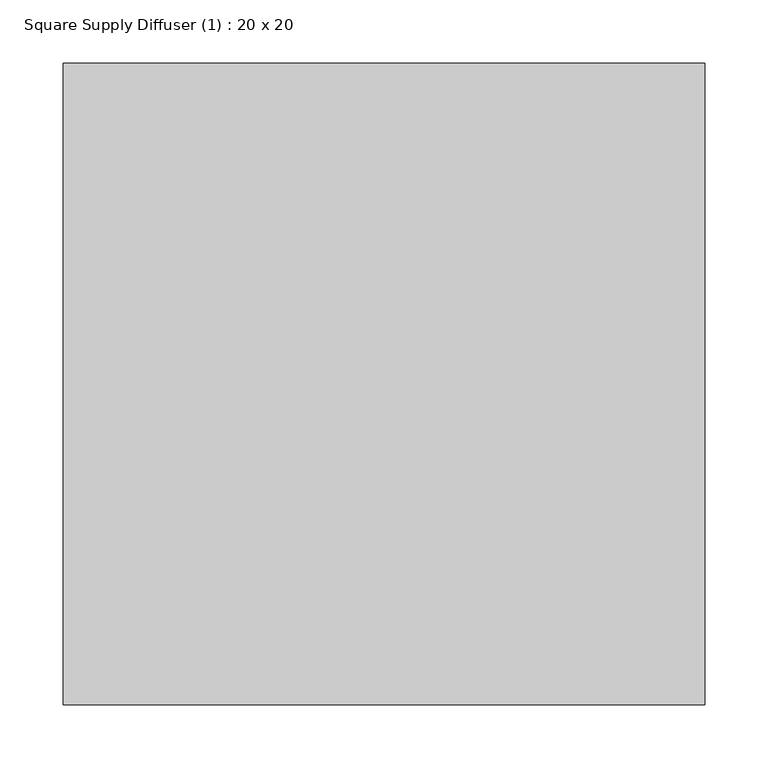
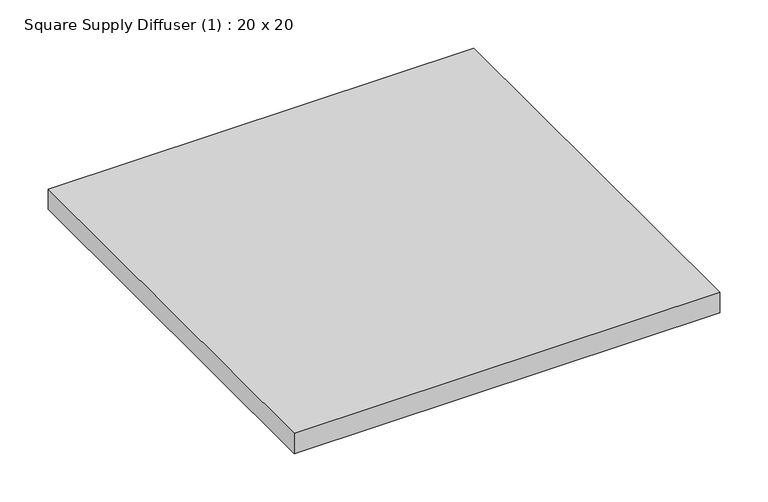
"""IFC4 building model written with IfcOpenShell, lengths in millimetres: air terminal geometry, Square Supply Diffuser (1) : 20 x 20."""

import ifcopenshell
import ifcopenshell.guid

model = None  # the IFC model being written
_history = None  # IfcOwnerHistory: only IFC2X3 demands one
_inside = {}  # id of a spatial element -> (the spatial element, [elements in it])
_under = {}  # id of a project, library or spatial element -> (it, [spatial elements below it])
_declared = {}  # id of a project -> (the project, [libraries it declares])
_typed = {}  # id of a type object -> (the type object, [elements of that type])
_made_of = {}  # id of a material, layer set ... -> (it, [elements and type objects made of it])


def new_model(schema):
    """Start an empty IFC model of exactly this schema.

    Asked for "IFC4X3", IfcOpenShell would pick the latest addendum, in which some entities
    have other attributes; the version numbers below select the first issue.
    IFC2X3 requires an IfcOwnerHistory on every rooted entity: one is made here for all.
    """
    global model, _history
    if schema == "IFC4X3":
        model = ifcopenshell.file(schema_version=(4, 3, 0, 0))
    else:
        model = ifcopenshell.file(schema=schema)
    _inside.clear()
    _under.clear()
    _declared.clear()
    _typed.clear()
    _made_of.clear()
    _history = None
    if model.schema == "IFC2X3":
        org = make("IfcOrganization", Name="unknown")
        user = make(
            "IfcPersonAndOrganization",
            ThePerson=make("IfcPerson", FamilyName="unknown"),
            TheOrganization=org,
        )
        app = make(
            "IfcApplication",
            ApplicationDeveloper=org,
            Version="unknown",
            ApplicationFullName="unknown",
            ApplicationIdentifier="unknown",
        )
        _history = make(
            "IfcOwnerHistory",
            OwningUser=user,
            OwningApplication=app,
            ChangeAction="ADDED",
            CreationDate=0,
        )
    return model


def make(cls, **values):
    """One entity of the class cls with the attributes given. An attribute that is None is left unset."""
    return model.create_entity(
        cls, **{name: value for name, value in values.items() if value is not None}
    )


def rooted(cls, **values):
    """An entity with a GlobalId (a new one), such as an element, a storey or a relation."""
    return make(cls, GlobalId=ifcopenshell.guid.new(), OwnerHistory=_history, **values)


def si_unit(unit_type, name, prefix=None):
    """IfcSIUnit, for example si_unit("LENGTHUNIT", "METRE", prefix="MILLI")."""
    return make("IfcSIUnit", UnitType=unit_type, Prefix=prefix, Name=name)


def assignment(units):
    """IfcUnitAssignment: the units of a project."""
    return None if units is None else make("IfcUnitAssignment", Units=units)


def point(xyz):
    """IfcCartesianPoint."""
    return None if xyz is None else make("IfcCartesianPoint", Coordinates=xyz)


def direction(xyz):
    """IfcDirection."""
    return None if xyz is None else make("IfcDirection", DirectionRatios=xyz)


def frame(location, z_axis=None, x_axis=None):
    """IfcAxis2Placement3D, a coordinate frame: its origin and axes. An axis left out is left unset."""
    return make(
        "IfcAxis2Placement3D",
        Location=point(location),
        Axis=direction(z_axis),
        RefDirection=direction(x_axis),
    )


def origin():
    """The frame at (0, 0, 0) with its axes left unset."""
    return frame((0.0, 0.0, 0.0))


def place(relative_to, where):
    """IfcLocalPlacement: puts the frame where relative to a parent placement (None: the world)."""
    return make(
        "IfcLocalPlacement", PlacementRelTo=relative_to, RelativePlacement=where
    )


def context(
    kind, dimensions, precision=None, world=None, true_north=None, identifier=None
):
    """IfcGeometricRepresentationContext, for example the 3D "Model" context."""
    return make(
        "IfcGeometricRepresentationContext",
        ContextIdentifier=identifier,
        ContextType=kind,
        CoordinateSpaceDimension=dimensions,
        Precision=precision,
        WorldCoordinateSystem=world,
        TrueNorth=true_north,
    )


def project(units=None, contexts=None):
    """IfcProject with its units and contexts."""
    return rooted(
        "IfcProject",
        Name="project",
        RepresentationContexts=contexts,
        UnitsInContext=assignment(units),
    )


def spatial(cls, under=None, at=None, **own):
    """A site, building, storey or space (cls), placed at a placement, below another one or the project."""
    s = rooted(cls, ObjectPlacement=at, **own)
    if under is not None:
        _under.setdefault(under.id(), (under, []))[1].append(s)
    return s


def polyline(points):
    """IfcPolyline through the points."""
    return make("IfcPolyline", Points=[point(p) for p in points])


def outline(outer, holes=None, kind="AREA"):
    """IfcArbitraryClosedProfileDef: a profile drawn as a closed curve; with holes, ...WithVoids."""
    if holes is None:
        return make("IfcArbitraryClosedProfileDef", ProfileType=kind, OuterCurve=outer)
    return make(
        "IfcArbitraryProfileDefWithVoids",
        ProfileType=kind,
        OuterCurve=outer,
        InnerCurves=holes,
    )


def extrude(swept, where, along, depth):
    """IfcExtrudedAreaSolid: the profile swept, set in the frame where, extruded along a direction by depth."""
    return make(
        "IfcExtrudedAreaSolid",
        SweptArea=swept,
        Position=where,
        ExtrudedDirection=direction(along),
        Depth=depth,
    )


def shape(context_of_items, identifier, shape_type, items):
    """IfcShapeRepresentation: the items that make up one representation, for example the "Body"."""
    return make(
        "IfcShapeRepresentation",
        ContextOfItems=context_of_items,
        RepresentationIdentifier=identifier,
        RepresentationType=shape_type,
        Items=items,
    )


def source(mapping_origin, context_of_items, identifier, shape_type, items):
    """IfcRepresentationMap: a shape defined once, which mapped items show again and again."""
    return make(
        "IfcRepresentationMap",
        MappingOrigin=mapping_origin,
        MappedRepresentation=shape(context_of_items, identifier, shape_type, items),
    )


def transform(
    local_origin,
    x_axis=None,
    y_axis=None,
    z_axis=None,
    scale=None,
    scale2=None,
    scale3=None,
    uniform=True,
):
    """IfcCartesianTransformationOperator3D, or its non-uniform kind. x_axis, y_axis, z_axis: its Axis1, 2, 3."""
    if uniform:
        return make(
            "IfcCartesianTransformationOperator3D",
            Axis1=direction(x_axis),
            Axis2=direction(y_axis),
            LocalOrigin=point(local_origin),
            Scale=scale,
            Axis3=direction(z_axis),
        )
    return make(
        "IfcCartesianTransformationOperator3DnonUniform",
        Axis1=direction(x_axis),
        Axis2=direction(y_axis),
        LocalOrigin=point(local_origin),
        Scale=scale,
        Axis3=direction(z_axis),
        Scale2=scale2,
        Scale3=scale3,
    )


def mapped(mapping_source, mapping_target):
    """IfcMappedItem: shows the shape of a source again, moved by a transform."""
    return make(
        "IfcMappedItem", MappingSource=mapping_source, MappingTarget=mapping_target
    )


def made_of(thing, what):
    """Note that an element or type object is made of a material, layer set ...; save() writes the relation."""
    if what is not None:
        _made_of.setdefault(what.id(), (what, []))[1].append(thing)
    return thing


def element(
    cls,
    number,
    at=None,
    inside=None,
    cuts=None,
    type_object=None,
    material=None,
    context=None,
    identifier="Body",
    shape_type=None,
    held_by="IfcProductDefinitionShape",
    body=None,
    shapes=None,
    **own,
):
    """One element of the class cls, such as IfcWall. Its Tag is "e" and its number.

    at: its placement. inside: the storey or other place that contains it. cuts: it is an
    opening in that element (IfcRelVoidsElement). A single representation is given by context,
    identifier, shape_type and body (its items); several are given by shapes. held_by: the class
    of the entity that holds the representations. save() writes the other relations.
    """
    e = rooted(cls, Tag="e%d" % number, ObjectPlacement=at, **own)
    if body is not None:
        shapes = [shape(context, identifier, shape_type, body)]
    if shapes is not None:
        e.Representation = make(held_by, Representations=shapes)
    if inside is not None:
        _inside.setdefault(inside.id(), (inside, []))[1].append(e)
    if cuts is not None:
        rooted(
            "IfcRelVoidsElement", RelatingBuildingElement=cuts, RelatedOpeningElement=e
        )
    if type_object is not None:
        _typed.setdefault(type_object.id(), (type_object, []))[1].append(e)
    return made_of(e, material)


def aggregate(whole, parts):
    """IfcRelAggregates: a whole, such as a stair, and the parts it consists of."""
    return rooted("IfcRelAggregates", RelatingObject=whole, RelatedObjects=parts)


def save(model, path):
    """Write the relations noted so far, then the file.

    IfcRelAggregates (storeys below a building ...), IfcRelContainedInSpatialStructure (elements
    in a storey), IfcRelDefinesByType, IfcRelAssociatesMaterial and IfcRelDeclares: one each for
    every whole, place, type object, material and project.
    """
    for whole, parts in _under.values():
        aggregate(whole, parts)
    for where, things in _inside.values():
        rooted(
            "IfcRelContainedInSpatialStructure",
            RelatedElements=things,
            RelatingStructure=where,
        )
    for kind, things in _typed.values():
        rooted("IfcRelDefinesByType", RelatedObjects=things, RelatingType=kind)
    for what, things in _made_of.values():
        rooted("IfcRelAssociatesMaterial", RelatedObjects=things, RelatingMaterial=what)
    for by, libraries in _declared.values():
        rooted("IfcRelDeclares", RelatingContext=by, RelatedDefinitions=libraries)
    model.write(path)


def square_supply_diffuser_1_20_x_20_7913197c(model_context):
    return source(origin(), model_context, "Body", "SweptSolid", [
        extrude(outline(polyline([(254.0, 254.0), (254.0, -254.0), (-254.0, -254.0), (-254.0, 254.0), (254.0, 254.0)])), frame((0.0, 0.0, 2413.0), z_axis=(0.0, 0.0, 1.0), x_axis=(1.0, 0.0, 0.0)), (0.0, 0.0, 1.0), 25.4),
    ])


if __name__ == "__main__":
    model = new_model("IFC4")
    model_context = context("Model", 3, world=origin())
    ifc_project = project(units=[si_unit("LENGTHUNIT", "METRE", prefix="MILLI")], contexts=[model_context])
    site = spatial("IfcSite", under=ifc_project)
    building = spatial("IfcBuilding", under=site)
    placement = place(None, origin())
    square_supply_diffuser_1_20_x_20_shape = square_supply_diffuser_1_20_x_20_7913197c(model_context)
    element("IfcAirTerminal", 1, ObjectType="Square Supply Diffuser (1) : 20 x 20", at=placement, inside=building, context=model_context, shape_type="MappedRepresentation", body=[
        mapped(square_supply_diffuser_1_20_x_20_shape, transform((0.0, 0.0, 0.0), x_axis=(1.0, 0.0, 0.0), y_axis=(0.0, 1.0, 0.0), z_axis=(0.0, 0.0, 1.0))),
    ])
    save(model, "model.ifc")
